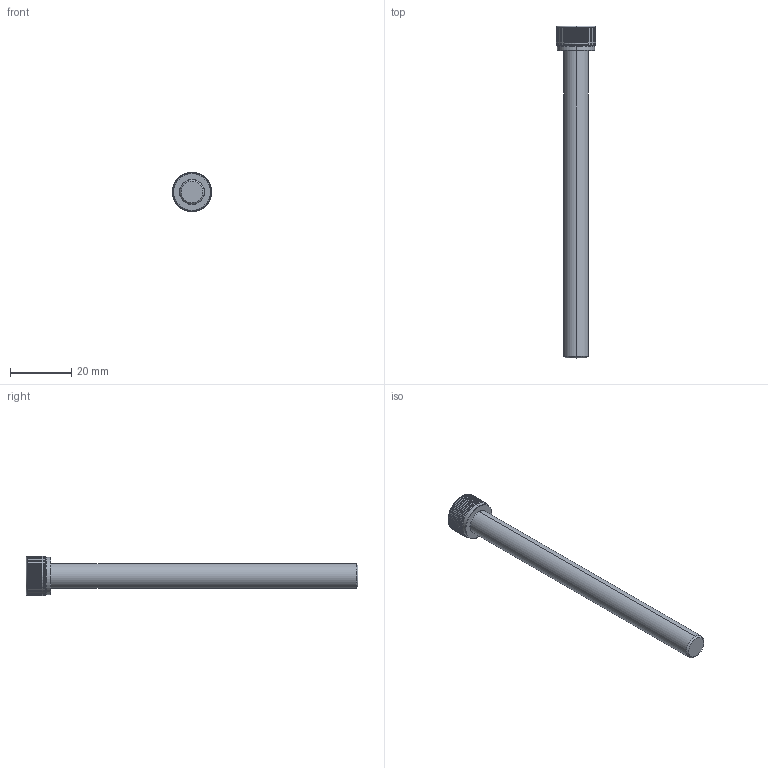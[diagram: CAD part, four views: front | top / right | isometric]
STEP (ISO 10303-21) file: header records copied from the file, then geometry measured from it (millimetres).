
FILE_DESCRIPTION (( 'STEP AP203' ), '1' );
FILE_NAME ('LGDT-304-M8x100.STEP', '2026-08-10T07:05:13', ( '' ), ( '' ), 'SwSTEP 2.0', 'SolidWorks 2020', '' );
FILE_SCHEMA (( 'CONFIG_CONTROL_DESIGN' ));
Length unit declared in the file: millimetre
Products named in the file (1): LGDT-304-M8x100
Bounding box: 12.8 x 108 x 12.8 mm (x, y, z)
Volume: 5875 mm3; surface area: 3166.8 mm2
Topology: 1 solids, 1 shells, 204 faces, 576 edges, 376 vertices
Faces by surface type: cylinder 175, cone 11, plane 10, torus 8
Entity records: 8367 total; most frequent: CARTESIAN_POINT 3208, ORIENTED_EDGE 1152, DIRECTION 988, EDGE_CURVE 576, AXIS2_PLACEMENT_3D 398, VERTEX_POINT 376, EDGE_LOOP 206, ADVANCED_FACE 204
